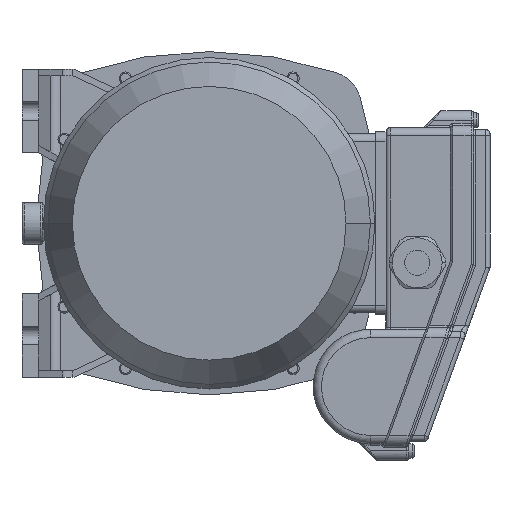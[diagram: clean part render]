
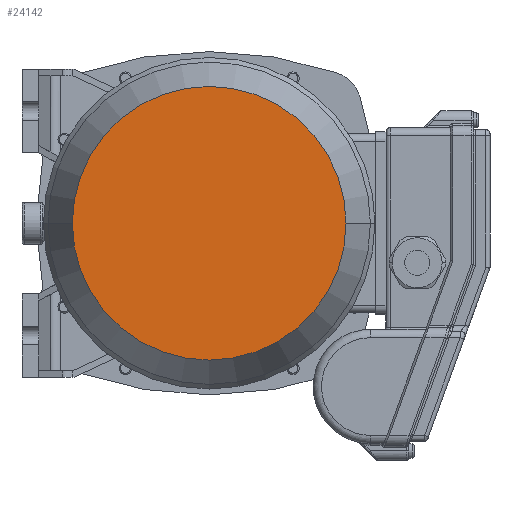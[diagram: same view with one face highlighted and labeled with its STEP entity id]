
A CAD part, front view. The second image highlights one B-rep face of the part: STEP entity #24142.
In plain terms, the highlighted planar face has unit normal (0, -1, 0) as drawn and (1, 0, 0) by its records, which use the part's own axes.
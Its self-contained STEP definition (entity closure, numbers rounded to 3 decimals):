
#18235=CARTESIAN_POINT('',(203.,0.,0.));
#18236=DIRECTION('',(-1.,0.,0.));
#18237=DIRECTION('',(0.,1.,0.));
#18238=AXIS2_PLACEMENT_3D('',#18235,#18236,#18237);
#18243=CARTESIAN_POINT('',(203.,0.,0.));
#18244=DIRECTION('',(1.,0.,0.));
#18245=DIRECTION('',(0.,1.,0.));
#18246=AXIS2_PLACEMENT_3D('',#18243,#18244,#18245);
#19551=CARTESIAN_POINT('',(203.,65.794,0.));
#19553=VERTEX_POINT('',#19551);
#19561=CARTESIAN_POINT('',(203.,-65.794,0.));
#19563=VERTEX_POINT('',#19561);
#24133=CARTESIAN_POINT('',(203.,0.,0.));
#24134=DIRECTION('',(1.,0.,0.));
#24135=DIRECTION('',(0.,-1.,0.));
#24136=AXIS2_PLACEMENT_3D('',#24133,#24134,#24135);
#24137=PLANE('',#24136);
#24138=ORIENTED_EDGE('',*,*,#24115,.T.);
#24139=ORIENTED_EDGE('',*,*,#24126,.F.);
#24140=EDGE_LOOP('',(#24138,#24139));
#24141=FACE_OUTER_BOUND('',#24140,.F.);
#18239=CIRCLE('',#18238,65.794);
#18247=CIRCLE('',#18246,65.794);
#24115=EDGE_CURVE('',#19553,#19563,#18239,.T.);
#24126=EDGE_CURVE('',#19553,#19563,#18247,.T.);
#24142=ADVANCED_FACE('',(#24141),#24137,.T.);
